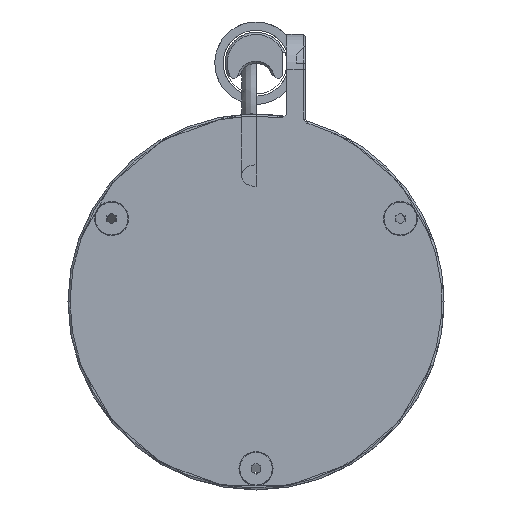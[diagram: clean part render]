
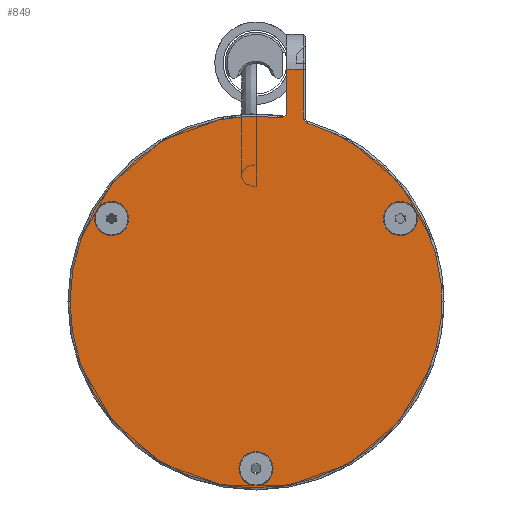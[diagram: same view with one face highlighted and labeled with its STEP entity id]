
A CAD part, front view. The second image highlights one B-rep face of the part: STEP entity #849.
In plain terms, the highlighted planar face has unit normal (0, -1, 0).
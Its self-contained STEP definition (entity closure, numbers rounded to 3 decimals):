
#1=CARTESIAN_POINT('',(35.074,-9.,20.25));
#2=DIRECTION('',(0.,-1.,0.));
#3=DIRECTION('',(-0.5,0.,0.866));
#4=AXIS2_PLACEMENT_3D('',#1,#2,#3);
#6=CARTESIAN_POINT('',(35.074,-9.,20.25));
#7=DIRECTION('',(0.,-1.,0.));
#8=DIRECTION('',(0.5,0.,-0.866));
#9=AXIS2_PLACEMENT_3D('',#6,#7,#8);
#11=CARTESIAN_POINT('',(-35.074,-9.,20.25));
#12=DIRECTION('',(0.,-1.,0.));
#13=DIRECTION('',(-0.5,0.,-0.866));
#14=AXIS2_PLACEMENT_3D('',#11,#12,#13);
#16=CARTESIAN_POINT('',(-35.074,-9.,20.25));
#17=DIRECTION('',(0.,-1.,0.));
#18=DIRECTION('',(0.5,0.,0.866));
#19=AXIS2_PLACEMENT_3D('',#16,#17,#18);
#21=CARTESIAN_POINT('',(0.,-9.,-40.5));
#22=DIRECTION('',(0.,-1.,0.));
#23=DIRECTION('',(1.,0.,0.));
#24=AXIS2_PLACEMENT_3D('',#21,#22,#23);
#26=CARTESIAN_POINT('',(0.,-9.,-40.5));
#27=DIRECTION('',(0.,-1.,0.));
#28=DIRECTION('',(-1.,0.,0.));
#29=AXIS2_PLACEMENT_3D('',#26,#27,#28);
#31=DIRECTION('',(-0.007,0.,1.));
#32=VECTOR('',#31,12.091);
#33=CARTESIAN_POINT('',(11.644,-9.,44.41));
#34=LINE('',#33,#32);
#35=CARTESIAN_POINT('',(11.644,-9.,44.41));
#36=CARTESIAN_POINT('',(11.644,-9.,44.379));
#37=CARTESIAN_POINT('',(11.647,-9.,44.319));
#38=CARTESIAN_POINT('',(11.66,-9.,44.228));
#39=CARTESIAN_POINT('',(11.682,-9.,44.138));
#40=CARTESIAN_POINT('',(11.712,-9.,44.05));
#41=CARTESIAN_POINT('',(11.749,-9.,43.966));
#42=CARTESIAN_POINT('',(11.795,-9.,43.886));
#43=CARTESIAN_POINT('',(11.847,-9.,43.81));
#44=CARTESIAN_POINT('',(11.906,-9.,43.739));
#45=CARTESIAN_POINT('',(11.971,-9.,43.674));
#46=CARTESIAN_POINT('',(12.042,-9.,43.615));
#47=CARTESIAN_POINT('',(12.119,-9.,43.563));
#48=CARTESIAN_POINT('',(12.199,-9.,43.519));
#49=CARTESIAN_POINT('',(12.284,-9.,43.482));
#50=CARTESIAN_POINT('',(12.341,-9.,43.463));
#51=CARTESIAN_POINT('',(12.37,-9.,43.454));
#53=CARTESIAN_POINT('',(6.45,-9.,44.718));
#54=CARTESIAN_POINT('',(6.476,-9.,44.714));
#55=CARTESIAN_POINT('',(6.528,-9.,44.709));
#56=CARTESIAN_POINT('',(6.609,-9.,44.71));
#57=CARTESIAN_POINT('',(6.689,-9.,44.718));
#58=CARTESIAN_POINT('',(6.768,-9.,44.735));
#59=CARTESIAN_POINT('',(6.845,-9.,44.759));
#60=CARTESIAN_POINT('',(6.919,-9.,44.791));
#61=CARTESIAN_POINT('',(6.989,-9.,44.83));
#62=CARTESIAN_POINT('',(7.055,-9.,44.877));
#63=CARTESIAN_POINT('',(7.116,-9.,44.929));
#64=CARTESIAN_POINT('',(7.172,-9.,44.988));
#65=CARTESIAN_POINT('',(7.221,-9.,45.051));
#66=CARTESIAN_POINT('',(7.264,-9.,45.119));
#67=CARTESIAN_POINT('',(7.299,-9.,45.192));
#68=CARTESIAN_POINT('',(7.328,-9.,45.268));
#69=CARTESIAN_POINT('',(7.348,-9.,45.346));
#70=CARTESIAN_POINT('',(7.361,-9.,45.425));
#71=CARTESIAN_POINT('',(7.364,-9.,45.478));
#72=CARTESIAN_POINT('',(7.364,-9.,45.505));
#74=DIRECTION('',(0.007,0.,1.));
#75=VECTOR('',#74,10.996);
#76=CARTESIAN_POINT('',(7.364,-9.,45.505));
#77=LINE('',#76,#75);
#78=DIRECTION('',(1.,0.,0.));
#79=VECTOR('',#78,4.119);
#80=CARTESIAN_POINT('',(7.441,-9.,56.5));
#81=LINE('',#80,#79);
#97=CARTESIAN_POINT('',(11.559,-9.,56.5));
#157=CARTESIAN_POINT('',(7.441,-9.,56.5));
#475=CARTESIAN_POINT('',(0.,-9.,0.));
#476=DIRECTION('',(0.,-1.,0.));
#477=DIRECTION('',(0.143,0.,0.99));
#478=AXIS2_PLACEMENT_3D('',#475,#476,#477);
#749=CARTESIAN_POINT('',(37.149,-9.,16.655));
#750=CARTESIAN_POINT('',(32.999,-9.,23.845));
#751=VERTEX_POINT('',#749);
#752=VERTEX_POINT('',#750);
#753=CARTESIAN_POINT('',(-32.999,-9.,23.845));
#754=CARTESIAN_POINT('',(-37.149,-9.,16.655));
#755=VERTEX_POINT('',#753);
#756=VERTEX_POINT('',#754);
#757=CARTESIAN_POINT('',(-4.151,-9.,-40.5));
#758=CARTESIAN_POINT('',(4.151,-9.,-40.5));
#759=VERTEX_POINT('',#757);
#760=VERTEX_POINT('',#758);
#787=VERTEX_POINT('',#97);
#789=CARTESIAN_POINT('',(11.644,-9.,44.41));
#790=VERTEX_POINT('',#789);
#806=VERTEX_POINT('',#157);
#807=CARTESIAN_POINT('',(7.364,-9.,45.505));
#808=VERTEX_POINT('',#807);
#809=VERTEX_POINT('',#53);
#810=VERTEX_POINT('',#51);
#812=CARTESIAN_POINT('',(0.,-9.,0.));
#813=DIRECTION('',(0.,1.,0.));
#814=DIRECTION('',(1.,0.,0.));
#815=AXIS2_PLACEMENT_3D('',#812,#813,#814);
#816=PLANE('',#815);
#818=ORIENTED_EDGE('',*,*,#817,.F.);
#820=ORIENTED_EDGE('',*,*,#819,.T.);
#822=ORIENTED_EDGE('',*,*,#821,.F.);
#824=ORIENTED_EDGE('',*,*,#823,.T.);
#826=ORIENTED_EDGE('',*,*,#825,.T.);
#828=ORIENTED_EDGE('',*,*,#827,.T.);
#829=EDGE_LOOP('',(#818,#820,#822,#824,#826,#828));
#830=FACE_OUTER_BOUND('',#829,.F.);
#832=ORIENTED_EDGE('',*,*,#831,.T.);
#834=ORIENTED_EDGE('',*,*,#833,.T.);
#835=EDGE_LOOP('',(#832,#834));
#836=FACE_BOUND('',#835,.F.);
#838=ORIENTED_EDGE('',*,*,#837,.T.);
#840=ORIENTED_EDGE('',*,*,#839,.T.);
#841=EDGE_LOOP('',(#838,#840));
#842=FACE_BOUND('',#841,.F.);
#844=ORIENTED_EDGE('',*,*,#843,.T.);
#846=ORIENTED_EDGE('',*,*,#845,.T.);
#847=EDGE_LOOP('',(#844,#846));
#848=FACE_BOUND('',#847,.F.);
#849=ADVANCED_FACE('',(#830,#836,#842,#848),#816,.F.);
#5=CIRCLE('',#4,4.151);
#10=CIRCLE('',#9,4.151);
#15=CIRCLE('',#14,4.151);
#20=CIRCLE('',#19,4.151);
#25=CIRCLE('',#24,4.151);
#30=CIRCLE('',#29,4.151);
#52=B_SPLINE_CURVE_WITH_KNOTS('',3,(#35,#36,#37,#38,#39,#40,#41,#42,#43,#44,#45,
#46,#47,#48,#49,#50,#51),.UNSPECIFIED.,.F.,.F.,(4,1,1,1,1,1,1,1,1,1,1,1,1,1,4),(
0.,0.071,0.143,0.214,0.286,
0.357,0.429,0.5,0.571,0.643,
0.714,0.786,0.857,0.929,1.),
.UNSPECIFIED.);
#73=B_SPLINE_CURVE_WITH_KNOTS('',3,(#53,#54,#55,#56,#57,#58,#59,#60,#61,#62,#63,
#64,#65,#66,#67,#68,#69,#70,#71,#72),.UNSPECIFIED.,.F.,.F.,(4,1,1,1,1,1,1,1,1,1,
1,1,1,1,1,1,1,4),(0.,0.059,0.118,0.176,
0.235,0.294,0.353,0.412,
0.471,0.529,0.588,0.647,
0.706,0.765,0.824,0.882,
0.941,1.),.UNSPECIFIED.);
#479=CIRCLE('',#478,45.181);
#817=EDGE_CURVE('',#790,#787,#34,.T.);
#819=EDGE_CURVE('',#790,#810,#52,.T.);
#821=EDGE_CURVE('',#809,#810,#479,.T.);
#823=EDGE_CURVE('',#809,#808,#73,.T.);
#825=EDGE_CURVE('',#808,#806,#77,.T.);
#827=EDGE_CURVE('',#806,#787,#81,.T.);
#831=EDGE_CURVE('',#756,#755,#15,.T.);
#833=EDGE_CURVE('',#755,#756,#20,.T.);
#837=EDGE_CURVE('',#760,#759,#25,.T.);
#839=EDGE_CURVE('',#759,#760,#30,.T.);
#843=EDGE_CURVE('',#752,#751,#5,.T.);
#845=EDGE_CURVE('',#751,#752,#10,.T.);
